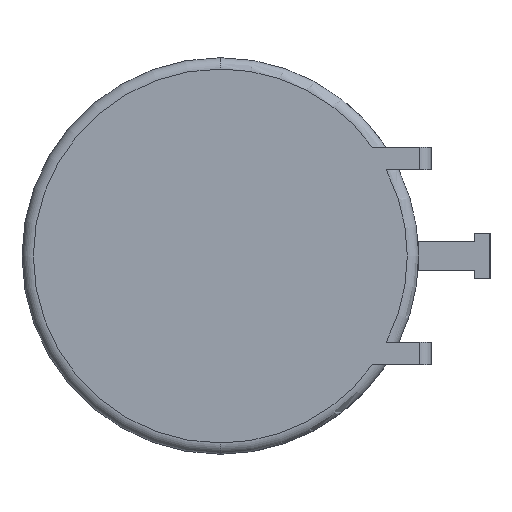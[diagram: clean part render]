
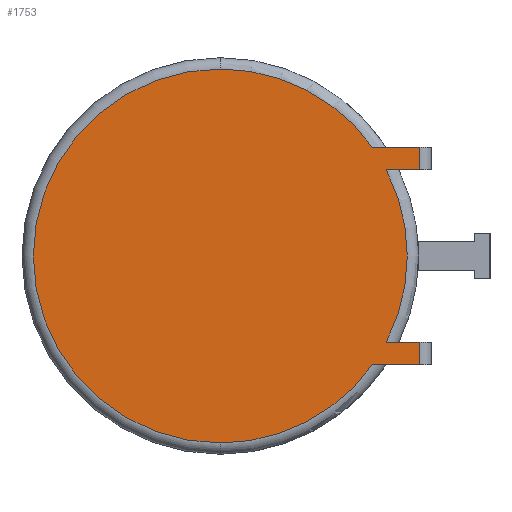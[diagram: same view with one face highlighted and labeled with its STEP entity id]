
A CAD part, left-side view. The second image highlights one B-rep face of the part: STEP entity #1753.
In plain terms, the highlighted planar face has unit normal (-1, 0, 0).
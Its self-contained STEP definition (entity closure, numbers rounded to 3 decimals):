
#12 = CARTESIAN_POINT ( 'NONE',  ( -6.528, 1.645, 6.096 ) ) ;
#19 = DIRECTION ( 'NONE',  ( 1., 0., 0. ) ) ;
#31 = ORIENTED_EDGE ( 'NONE', *, *, #2230, .F. ) ;
#183 = DIRECTION ( 'NONE',  ( 1., 0., 0. ) ) ;
#221 = CIRCLE ( 'NONE', #1169, 10.477 ) ;
#274 = EDGE_CURVE ( 'NONE', #2861, #500, #291, .T. ) ;
#284 = CARTESIAN_POINT ( 'NONE',  ( -6.528, 0.635, 0. ) ) ;
#291 = LINE ( 'NONE', #828, #2132 ) ;
#357 = CIRCLE ( 'NONE', #1527, 10.477 ) ;
#361 = LINE ( 'NONE', #1974, #3148 ) ;
#443 = EDGE_CURVE ( 'NONE', #785, #492, #1896, .T. ) ;
#473 = ORIENTED_EDGE ( 'NONE', *, *, #274, .T. ) ;
#492 = VERTEX_POINT ( 'NONE', #3245 ) ;
#500 = VERTEX_POINT ( 'NONE', #2714 ) ;
#506 = EDGE_CURVE ( 'NONE', #1564, #3365, #361, .T. ) ;
#555 = VERTEX_POINT ( 'NONE', #2475 ) ;
#590 = DIRECTION ( 'NONE',  ( -1., 0., 0. ) ) ;
#635 = DIRECTION ( 'NONE',  ( 0., 0., -1. ) ) ;
#715 = ORIENTED_EDGE ( 'NONE', *, *, #827, .T. ) ;
#785 = VERTEX_POINT ( 'NONE', #2261 ) ;
#827 = EDGE_CURVE ( 'NONE', #1564, #492, #835, .T. ) ;
#828 = CARTESIAN_POINT ( 'NONE',  ( -6.528, 0.635, 0. ) ) ;
#835 = LINE ( 'NONE', #284, #2202 ) ;
#845 = ORIENTED_EDGE ( 'NONE', *, *, #443, .F. ) ;
#882 = PLANE ( 'NONE',  #2802 ) ;
#895 = EDGE_CURVE ( 'NONE', #3365, #2730, #1579, .T. ) ;
#951 = ORIENTED_EDGE ( 'NONE', *, *, #970, .F. ) ;
#970 = EDGE_CURVE ( 'NONE', #555, #785, #357, .T. ) ;
#1070 = CARTESIAN_POINT ( 'NONE',  ( -6.528, 11.811, 0. ) ) ;
#1084 = CIRCLE ( 'NONE', #2144, 10.477 ) ;
#1169 = AXIS2_PLACEMENT_3D ( 'NONE', #1208, #183, #635 ) ;
#1208 = CARTESIAN_POINT ( 'NONE',  ( -6.528, 11.811, 0. ) ) ;
#1228 = EDGE_CURVE ( 'NONE', #2823, #555, #1084, .T. ) ;
#1237 = CARTESIAN_POINT ( 'NONE',  ( -6.528, 0.635, 4.826 ) ) ;
#1296 = LINE ( 'NONE', #3036, #2648 ) ;
#1315 = DIRECTION ( 'NONE',  ( 0., 0., -1. ) ) ;
#1411 = CARTESIAN_POINT ( 'NONE',  ( -6.528, 22.722, 10.897 ) ) ;
#1527 = AXIS2_PLACEMENT_3D ( 'NONE', #1070, #2136, #3252 ) ;
#1563 = CARTESIAN_POINT ( 'NONE',  ( -6.528, 11.811, 0. ) ) ;
#1564 = VERTEX_POINT ( 'NONE', #1237 ) ;
#1579 = CIRCLE ( 'NONE', #2304, 10.477 ) ;
#1611 = CARTESIAN_POINT ( 'NONE',  ( -6.528, 1.256, -4.826 ) ) ;
#1666 = DIRECTION ( 'NONE',  ( 0., 0., -1. ) ) ;
#1753 = ADVANCED_FACE ( 'NONE', ( #2483 ), #882, .T. ) ;
#1790 = ORIENTED_EDGE ( 'NONE', *, *, #2994, .F. ) ;
#1878 = EDGE_CURVE ( 'NONE', #2730, #500, #2891, .T. ) ;
#1896 = LINE ( 'NONE', #12, #3090 ) ;
#1904 = DIRECTION ( 'NONE',  ( 0., 0., 1. ) ) ;
#1956 = ORIENTED_EDGE ( 'NONE', *, *, #1878, .F. ) ;
#1974 = CARTESIAN_POINT ( 'NONE',  ( -6.528, 1.256, 4.826 ) ) ;
#1993 = ORIENTED_EDGE ( 'NONE', *, *, #895, .F. ) ;
#2132 = VECTOR ( 'NONE', #1904, 1000. ) ;
#2136 = DIRECTION ( 'NONE',  ( 1., 0., 0. ) ) ;
#2144 = AXIS2_PLACEMENT_3D ( 'NONE', #1563, #19, #1315 ) ;
#2148 = DIRECTION ( 'NONE',  ( 0., -1., 0. ) ) ;
#2197 = DIRECTION ( 'NONE',  ( 0., 0., 1. ) ) ;
#2202 = VECTOR ( 'NONE', #2197, 1000. ) ;
#2230 = EDGE_CURVE ( 'NONE', #2861, #3415, #1296, .T. ) ;
#2239 = CARTESIAN_POINT ( 'NONE',  ( -6.528, 11.811, -10.477 ) ) ;
#2261 = CARTESIAN_POINT ( 'NONE',  ( -6.528, 3.289, 6.096 ) ) ;
#2304 = AXIS2_PLACEMENT_3D ( 'NONE', #3307, #2708, #2753 ) ;
#2314 = ORIENTED_EDGE ( 'NONE', *, *, #506, .F. ) ;
#2326 = CARTESIAN_POINT ( 'NONE',  ( -6.528, 3.289, -6.096 ) ) ;
#2355 = DIRECTION ( 'NONE',  ( 0., -1., 0. ) ) ;
#2456 = DIRECTION ( 'NONE',  ( 0., 1., 0. ) ) ;
#2475 = CARTESIAN_POINT ( 'NONE',  ( -6.528, 11.811, 10.478 ) ) ;
#2482 = VECTOR ( 'NONE', #2355, 1000. ) ;
#2483 = FACE_OUTER_BOUND ( 'NONE', #2811, .T. ) ;
#2648 = VECTOR ( 'NONE', #2456, 1000. ) ;
#2695 = DIRECTION ( 'NONE',  ( 0., 1., 0. ) ) ;
#2708 = DIRECTION ( 'NONE',  ( 1., 0., 0. ) ) ;
#2714 = CARTESIAN_POINT ( 'NONE',  ( -6.528, 0.635, -4.826 ) ) ;
#2730 = VERTEX_POINT ( 'NONE', #3265 ) ;
#2753 = DIRECTION ( 'NONE',  ( 0., 0., -1. ) ) ;
#2802 = AXIS2_PLACEMENT_3D ( 'NONE', #1411, #590, #1666 ) ;
#2811 = EDGE_LOOP ( 'NONE', ( #31, #473, #1956, #1993, #2314, #715, #845, #951, #3258, #1790 ) ) ;
#2823 = VERTEX_POINT ( 'NONE', #2239 ) ;
#2861 = VERTEX_POINT ( 'NONE', #3199 ) ;
#2891 = LINE ( 'NONE', #1611, #2482 ) ;
#2994 = EDGE_CURVE ( 'NONE', #3415, #2823, #221, .T. ) ;
#3019 = CARTESIAN_POINT ( 'NONE',  ( -6.528, 2.511, 4.826 ) ) ;
#3036 = CARTESIAN_POINT ( 'NONE',  ( -6.528, 1.645, -6.096 ) ) ;
#3090 = VECTOR ( 'NONE', #2148, 1000. ) ;
#3148 = VECTOR ( 'NONE', #2695, 1000. ) ;
#3199 = CARTESIAN_POINT ( 'NONE',  ( -6.528, 0.635, -6.096 ) ) ;
#3245 = CARTESIAN_POINT ( 'NONE',  ( -6.528, 0.635, 6.096 ) ) ;
#3252 = DIRECTION ( 'NONE',  ( 0., 0., -1. ) ) ;
#3258 = ORIENTED_EDGE ( 'NONE', *, *, #1228, .F. ) ;
#3265 = CARTESIAN_POINT ( 'NONE',  ( -6.528, 2.511, -4.826 ) ) ;
#3307 = CARTESIAN_POINT ( 'NONE',  ( -6.528, 11.811, 0. ) ) ;
#3365 = VERTEX_POINT ( 'NONE', #3019 ) ;
#3415 = VERTEX_POINT ( 'NONE', #2326 ) ;
